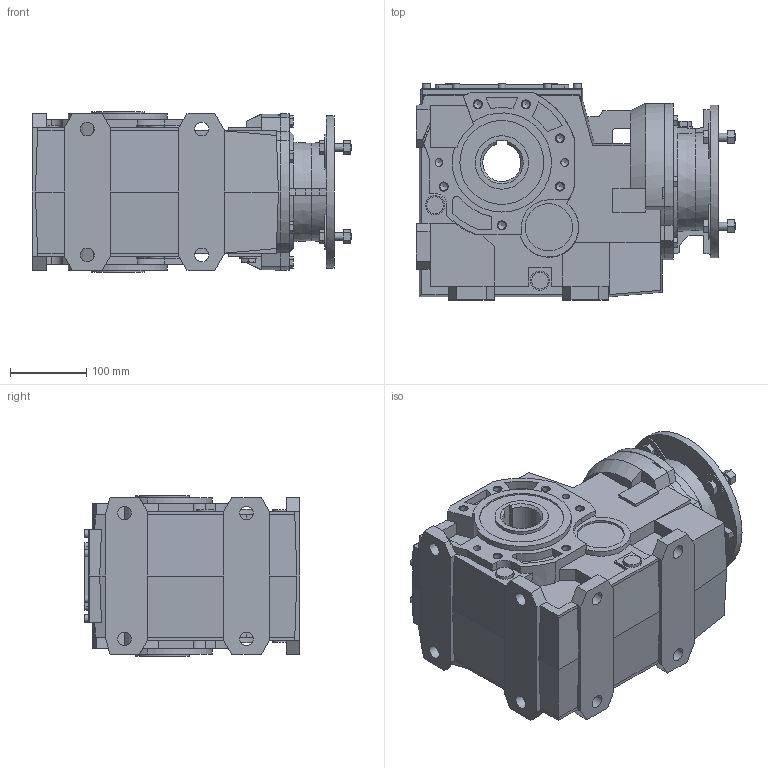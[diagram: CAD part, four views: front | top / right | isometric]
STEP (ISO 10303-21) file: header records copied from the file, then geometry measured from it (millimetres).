
FILE_DESCRIPTION(/* description */ ('STEP AP214'),/* implementation_level */ '2;1');
FILE_NAME(/* name */ 'B103UC80 B5500000000NO----(---------------)',/* time_stamp */ '2024-11-12T11:39:20+01:00',/* author */ ('License CC BY-ND 4.0'),/* organization */ ('CADENAS'),/* preprocessor_version */ 'ST-DEVELOPER v19.3',/* originating_system */ 'PARTsolutions',/* authorisation */ ' ');
FILE_SCHEMA (('AUTOMOTIVE_DESIGN {1 0 10303 214 3 1 1}'));
Length unit declared in the file: millimetre
Products named in the file (5): B103UC80 B5500000000NO----(---------------); 103-U-70; 103-50-C; 103-B-200x19(80 B51); B103-200x19
Assembly tree (4 placements, depth 2):
  B103UC80 B5500000000NO----(---------------)
    103-U-70
    103-50-C
    103-B-200x19(80 B51)
    B103-200x19
Bounding box: 418.5 x 283 x 210 mm (x, y, z)
Volume: 14726508.4 mm3; surface area: 788612.4 mm2
Topology: 4 solids, 4 shells, 695 faces, 1781 edges, 1172 vertices
Faces by surface type: plane 509, cylinder 124, cone 61, torus 1
Full cylindrical faces by diameter (mm): 5 x3, 9.412 x3, 10 x22, 10.106 x12, 18 x8, 22 x5, 25 x5, 32 x2, 62 x2, 70 x2, 110 x2, 130 x1, 160 x2, 200 x1
Entity records: 24899 total; most frequent: CARTESIAN_POINT 3665, DIRECTION 3308, ORIENTED_EDGE 3244, EDGE_CURVE 1622, LINE 1198, VECTOR 1198, VERTEX_POINT 1133, AXIS2_PLACEMENT_3D 1055
